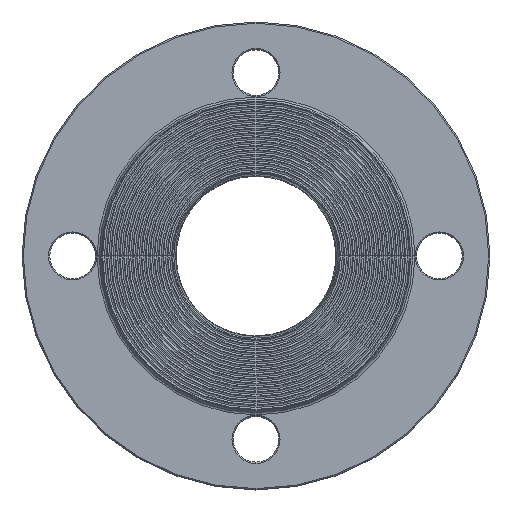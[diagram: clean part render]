
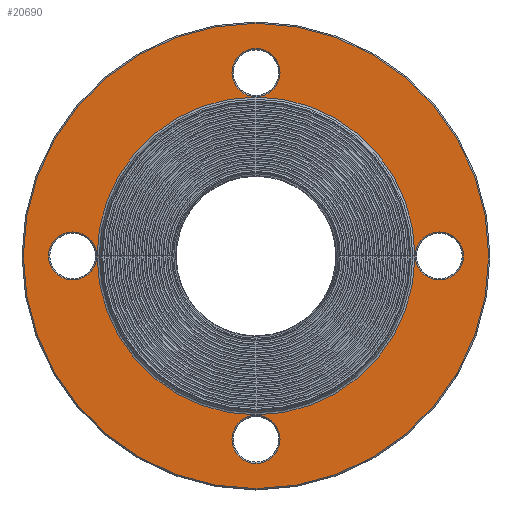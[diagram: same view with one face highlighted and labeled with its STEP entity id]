
A CAD part, top view. The second image highlights one B-rep face of the part: STEP entity #20690.
In plain terms, the highlighted planar face has unit normal (0, 0, 1) as drawn and (-1, 0, 0) by its records, which use the part's own axes.
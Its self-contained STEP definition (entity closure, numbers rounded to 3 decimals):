
#4240=CARTESIAN_POINT('',(-18.676,0.,-63.))
;
#4250=VERTEX_POINT('',#4240);
#4280=CARTESIAN_POINT('',(-18.676,0.,-72.5)
);
#4290=DIRECTION('',(-1.,0.,0.));
#4300=DIRECTION('',(0.,0.,1.));
#4310=AXIS2_PLACEMENT_3D('',#4280,#4290,#4300);
#4320=CIRCLE('',#4310,9.5);
#4330=CARTESIAN_POINT('',(-18.676,0.,-82.))
;
#4340=VERTEX_POINT('',#4330);
#4350=EDGE_CURVE('',#4340,#4250,#4320,.T.);
#4640=CARTESIAN_POINT('',(-18.676,0.,92.));
#4650=VERTEX_POINT('',#4640);
#4830=CARTESIAN_POINT('',(-18.676,0.,-92.));
#4840=VERTEX_POINT('',#4830);
#4870=CARTESIAN_POINT('',(-18.676,0.,
0.));
#4880=DIRECTION('',(-1.,0.,0.));
#4890=DIRECTION('',(0.,0.,1.));
#4900=AXIS2_PLACEMENT_3D('',#4870,#4880,#4890);
#4910=CIRCLE('',#4900,92.);
#4920=EDGE_CURVE('',#4840,#4650,#4910,.T.);
#19790=CARTESIAN_POINT('',(-18.676,0.,
-62.832));
#19800=VERTEX_POINT('',#19790);
#19900=CARTESIAN_POINT('',(-18.676,0.,
62.832));
#19910=VERTEX_POINT('',#19900);
#19940=CARTESIAN_POINT('',(-18.676,0.,
0.));
#19950=DIRECTION('',(-1.,0.,0.));
#19960=DIRECTION('',(0.,0.,-1.));
#19970=AXIS2_PLACEMENT_3D('',#19940,#19950,#19960);
#19980=CIRCLE('',#19970,62.832);
#19990=EDGE_CURVE('',#19800,#19910,#19980,.T.);
#20040=CARTESIAN_POINT('',(-18.676,0.,
79.661));
#20050=DIRECTION('',(-1.,0.,0.));
#20060=DIRECTION('',(0.,0.,1.));
#20070=AXIS2_PLACEMENT_3D('',#20040,#20050,#20060);
#20080=PLANE('',#20070);
#20090=CARTESIAN_POINT('',(-18.676,0.,72.5)
);
#20100=DIRECTION('',(-1.,0.,0.));
#20110=DIRECTION('',(0.,0.,1.));
#20120=AXIS2_PLACEMENT_3D('',#20090,#20100,#20110);
#20130=CIRCLE('',#20120,9.5);
#20140=CARTESIAN_POINT('',(-18.676,0.,82.))
;
#20150=VERTEX_POINT('',#20140);
#20160=CARTESIAN_POINT('',(-18.676,0.,63.));
#20170=VERTEX_POINT('',#20160);
#20180=EDGE_CURVE('',#20150,#20170,#20130,.T.);
#20190=ORIENTED_EDGE('',*,*,#20180,.F.);
#20200=EDGE_CURVE('',#20170,#20150,#20130,.T.);
#20210=ORIENTED_EDGE('',*,*,#20200,.F.);
#20220=EDGE_LOOP('',(#20210,#20190));
#20230=FACE_BOUND('',#20220,.T.);
#20240=CARTESIAN_POINT('',(-18.676,72.5,0.)
);
#20250=DIRECTION('',(-1.,0.,0.));
#20260=DIRECTION('',(0.,0.,1.));
#20270=AXIS2_PLACEMENT_3D('',#20240,#20250,#20260);
#20280=CIRCLE('',#20270,9.5);
#20290=CARTESIAN_POINT('',(-18.676,72.5,9.5));
#20300=VERTEX_POINT('',#20290);
#20310=CARTESIAN_POINT('',(-18.676,72.5,-9.5));
#20320=VERTEX_POINT('',#20310);
#20330=EDGE_CURVE('',#20300,#20320,#20280,.T.);
#20340=ORIENTED_EDGE('',*,*,#20330,.F.);
#20350=EDGE_CURVE('',#20320,#20300,#20280,.T.);
#20360=ORIENTED_EDGE('',*,*,#20350,.F.);
#20370=EDGE_LOOP('',(#20360,#20340));
#20380=FACE_BOUND('',#20370,.T.);
#20390=EDGE_CURVE('',#19910,#19800,#19980,.T.);
#20400=ORIENTED_EDGE('',*,*,#20390,.F.);
#20410=ORIENTED_EDGE('',*,*,#19990,.F.);
#20420=EDGE_LOOP('',(#20410,#20400));
#20430=FACE_BOUND('',#20420,.T.);
#20440=CARTESIAN_POINT('',(-18.676,-72.5,0.)
);
#20450=DIRECTION('',(-1.,0.,0.));
#20460=DIRECTION('',(0.,0.,1.));
#20470=AXIS2_PLACEMENT_3D('',#20440,#20450,#20460);
#20480=CIRCLE('',#20470,9.5);
#20490=CARTESIAN_POINT('',(-18.676,-72.5,9.5));
#20500=VERTEX_POINT('',#20490);
#20510=CARTESIAN_POINT('',(-18.676,-72.5,-9.5));
#20520=VERTEX_POINT('',#20510);
#20530=EDGE_CURVE('',#20500,#20520,#20480,.T.);
#20540=ORIENTED_EDGE('',*,*,#20530,.F.);
#20550=EDGE_CURVE('',#20520,#20500,#20480,.T.);
#20560=ORIENTED_EDGE('',*,*,#20550,.F.);
#20570=EDGE_LOOP('',(#20560,#20540));
#20580=FACE_BOUND('',#20570,.T.);
#20590=EDGE_CURVE('',#4250,#4340,#4320,.T.);
#20600=ORIENTED_EDGE('',*,*,#20590,.F.);
#20610=ORIENTED_EDGE('',*,*,#4350,.F.);
#20620=EDGE_LOOP('',(#20610,#20600));
#20630=FACE_BOUND('',#20620,.T.);
#20640=EDGE_CURVE('',#4650,#4840,#4910,.T.);
#20650=ORIENTED_EDGE('',*,*,#20640,.T.);
#20660=ORIENTED_EDGE('',*,*,#4920,.T.);
#20670=EDGE_LOOP('',(#20660,#20650));
#20680=FACE_OUTER_BOUND('',#20670,.T.);
#20690=ADVANCED_FACE('',(#20230,#20380,#20430,#20580,#20630,#20680),
#20080,.T.);
